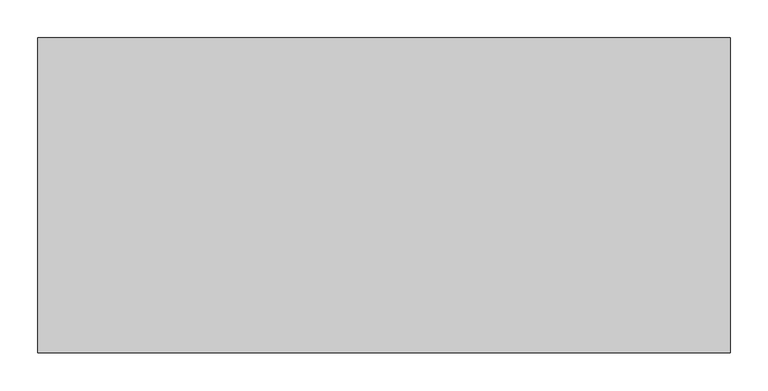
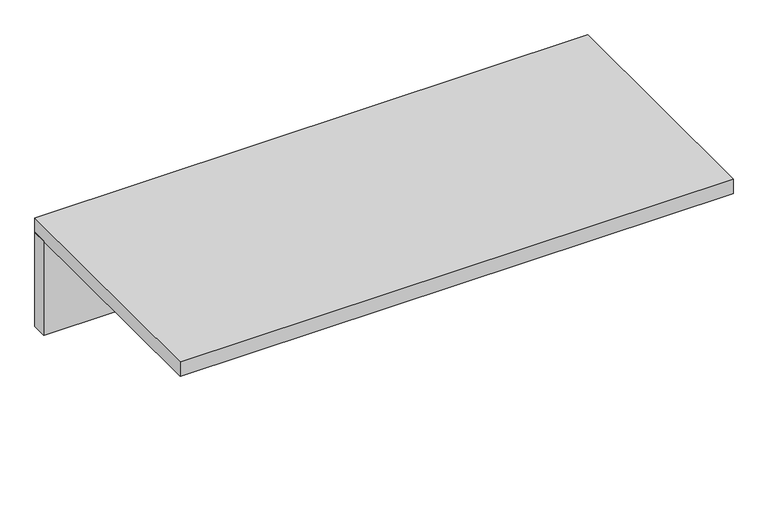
"""IFC4 building model written with IfcOpenShell, lengths in millimetres: furniture geometry."""

from ifc_helpers import new_model, si_unit, frame, origin, place, context, project, spatial, polyline, outline, extrude, source, transform, mapped, element, save


def furniture_7324295f(model_context):
    return source(origin(), model_context, "Body", "SweptSolid", [
        extrude(outline(polyline([(457.2, 207.9625), (457.2, 182.5625), (-457.2, 182.5625), (-457.2, 207.9625), (457.2, 207.9625)])), frame((0.0, 0.0, 889.0), z_axis=(0.0, 0.0, 1.0), x_axis=(1.0, 0.0, 0.0)), (0.0, 0.0, 1.0), 165.1),
        extrude(outline(polyline([(457.2, -207.9625), (-457.2, -207.9625), (-457.2, 207.9625), (457.2, 207.9625), (457.2, -207.9625)])), frame((0.0, 0.0, 1054.1), z_axis=(0.0, 0.0, 1.0), x_axis=(1.0, 0.0, 0.0)), (0.0, 0.0, 1.0), 25.4),
    ])


if __name__ == "__main__":
    model = new_model("IFC4")
    model_context = context("Model", 3, world=origin())
    ifc_project = project(units=[si_unit("LENGTHUNIT", "METRE", prefix="MILLI")], contexts=[model_context])
    site = spatial("IfcSite", under=ifc_project)
    building = spatial("IfcBuilding", under=site)
    placement = place(None, origin())
    furniture_shape = furniture_7324295f(model_context)
    element("IfcFurniture", 1, ObjectType="HermanMiller_Ethospace_E2830_SqEdgeCounterTop : 7-1/2\"H x 16-3/8\"D x 36\"W", at=placement, inside=building, context=model_context, shape_type="MappedRepresentation", body=[
        mapped(furniture_shape, transform((0.0, 0.0, 0.0), x_axis=(1.0, 0.0, 0.0), y_axis=(0.0, 1.0, 0.0), z_axis=(0.0, 0.0, 1.0))),
    ])
    save(model, "model.ifc")
